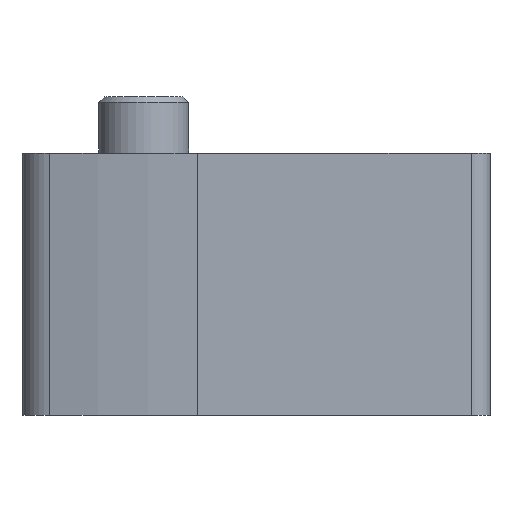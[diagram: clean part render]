
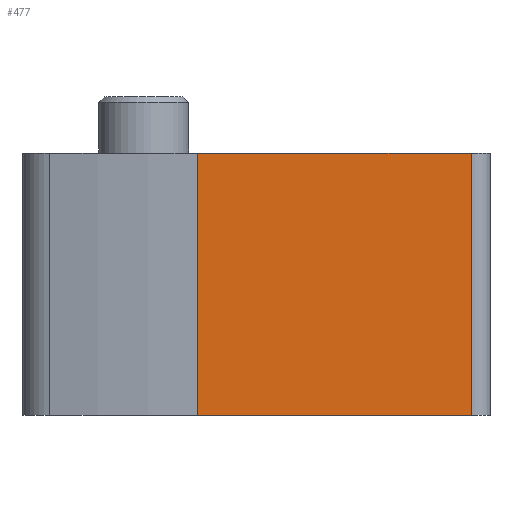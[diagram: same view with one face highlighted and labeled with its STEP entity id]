
A CAD part, front view. The second image highlights one B-rep face of the part: STEP entity #477.
In plain terms, the highlighted planar face has unit normal (0, -1, 0).
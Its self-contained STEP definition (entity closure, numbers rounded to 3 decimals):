
#78=ORIENTED_EDGE('',*,*,#204,.T.);
#79=ORIENTED_EDGE('',*,*,#205,.F.);
#80=ORIENTED_EDGE('',*,*,#206,.F.);
#81=ORIENTED_EDGE('',*,*,#202,.T.);
#202=EDGE_CURVE('',#265,#264,#309,.T.);
#204=EDGE_CURVE('',#264,#266,#310,.T.);
#205=EDGE_CURVE('',#267,#266,#311,.T.);
#206=EDGE_CURVE('',#265,#267,#312,.T.);
#264=VERTEX_POINT('',#751);
#265=VERTEX_POINT('',#753);
#266=VERTEX_POINT('',#757);
#267=VERTEX_POINT('',#759);
#309=LINE('',#752,#343);
#310=LINE('',#756,#344);
#311=LINE('',#758,#345);
#312=LINE('',#760,#346);
#343=VECTOR('',#596,1000.);
#344=VECTOR('',#601,1000.);
#345=VECTOR('',#602,1000.);
#346=VECTOR('',#603,1000.);
#375=EDGE_LOOP('',(#78,#79,#80,#81));
#419=FACE_BOUND('',#375,.T.);
#461=PLANE('',#524);
#477=ADVANCED_FACE('',(#419),#461,.F.);
#524=AXIS2_PLACEMENT_3D('',#755,#599,#600);
#596=DIRECTION('',(0.,0.,-1.));
#599=DIRECTION('',(0.,1.,0.));
#600=DIRECTION('',(0.,0.,1.));
#601=DIRECTION('',(1.,0.,0.));
#602=DIRECTION('',(0.,0.,-1.));
#603=DIRECTION('',(1.,0.,0.));
#751=CARTESIAN_POINT('',(9.367,-44.,-7.));
#752=CARTESIAN_POINT('',(9.367,-44.,7.));
#753=CARTESIAN_POINT('',(9.367,-44.,7.));
#755=CARTESIAN_POINT('',(9.367,-44.,7.));
#756=CARTESIAN_POINT('',(9.367,-44.,-7.));
#757=CARTESIAN_POINT('',(24.,-44.,-7.));
#758=CARTESIAN_POINT('',(24.,-44.,7.));
#759=CARTESIAN_POINT('',(24.,-44.,7.));
#760=CARTESIAN_POINT('',(9.367,-44.,7.));
